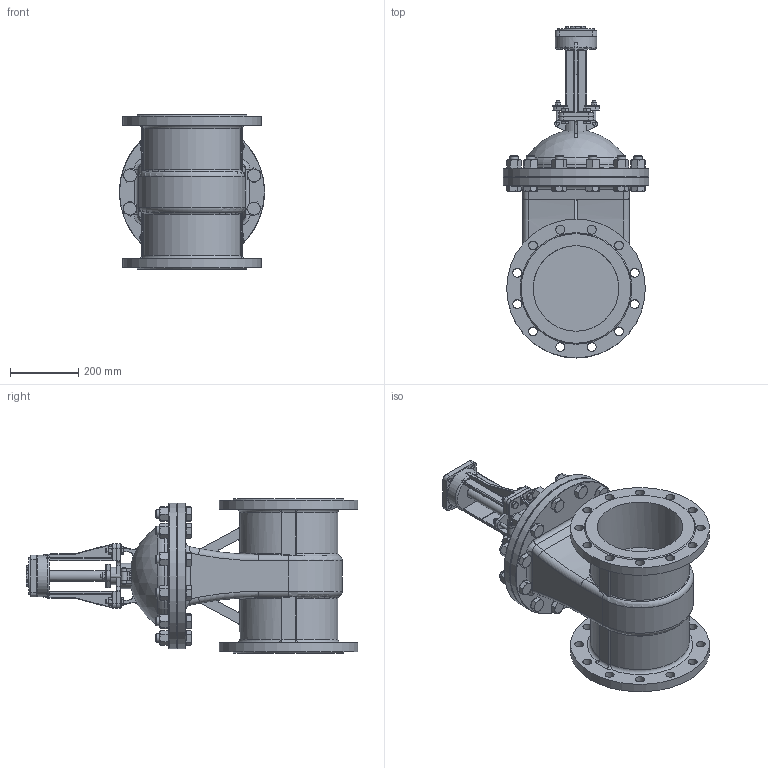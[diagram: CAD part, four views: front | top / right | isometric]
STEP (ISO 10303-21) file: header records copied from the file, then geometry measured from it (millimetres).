
FILE_DESCRIPTION(('STEP AP242'), '1');
FILE_NAME('GVWR3535M-2W-F-ÎÑÒ Çàäâèæêà êëèíîâàÿ ñ âûäâèæíûì øòîêîì Äó250 Ðó16', '2026-06-04T21:31:29', ('R2D2'), (''), 'C3D Converter', 'C3D Toolkit', '');
FILE_SCHEMA(('AP242_MANAGED_MODEL_BASED_3D_ENGINEERING_MIM_LF { 1 0 10303 442 1 1 4 }'));
Length unit declared in the file: millimetre
Products named in the file (1): GVWR3535M-2W-F-ОСТ
Bounding box: 425 x 969.5 x 450 mm (x, y, z)
Volume: 40786770.6 mm3; surface area: 2048256.4 mm2
Topology: 1 solids, 13 shells, 1482 faces, 3644 edges, 2258 vertices
Faces by surface type: plane 658, cone 288, cylinder 273, extrusion 110, bspline 75, torus 69, sphere 5, revolution 4
Full cylindrical faces by diameter (mm): 8.75 x4, 10 x4, 12 x4, 12.5 x8, 18.75 x2, 20 x4, 25 x36, 26 x24, 31.25 x2, 34.875 x12, 37.5 x9, 45 x1, 50 x1, 65 x1, 66 x1, 108 x1, 120.592 x1, 250 x2, 300 x2, 405 x2, 425 x2
Entity records: 92700 total; most frequent: CARTESIAN_POINT 48388, ORIENTED_EDGE 6918, DIRECTION 5895, EDGE_CURVE 3459, VERTEX_POINT 2256, AXIS2_PLACEMENT_3D 2207, EDGE_LOOP 1863, FACE_BOUND 1634
